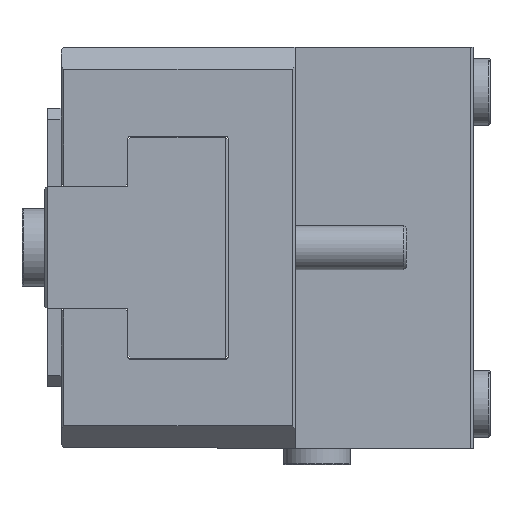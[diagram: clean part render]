
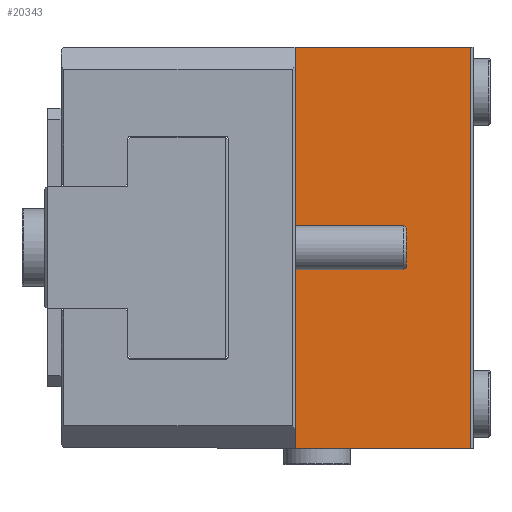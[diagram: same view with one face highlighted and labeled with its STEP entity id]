
A CAD part, left-side view. The second image highlights one B-rep face of the part: STEP entity #20343.
In plain terms, the highlighted planar face has unit normal (-1, 0, 0).
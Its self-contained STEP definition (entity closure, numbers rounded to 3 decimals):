
#52 = EDGE_CURVE ( 'NONE', #24635, #6542, #38154, .T. ) ;
#1867 = AXIS2_PLACEMENT_3D ( 'NONE', #6889, #23006, #51030 ) ;
#2771 = CARTESIAN_POINT ( 'NONE',  ( -62.5, 0.5, 36. ) ) ;
#5255 = EDGE_CURVE ( 'NONE', #43854, #28690, #50553, .T. ) ;
#6239 = ORIENTED_EDGE ( 'NONE', *, *, #5255, .F. ) ;
#6542 = VERTEX_POINT ( 'NONE', #44893 ) ;
#6889 = CARTESIAN_POINT ( 'NONE',  ( -62.5, -90.179, 36. ) ) ;
#8283 = EDGE_CURVE ( 'NONE', #6542, #43854, #15477, .T. ) ;
#9268 = ORIENTED_EDGE ( 'NONE', *, *, #8283, .F. ) ;
#9926 = DIRECTION ( 'NONE',  ( 0., 0., -1. ) ) ;
#11781 = DIRECTION ( 'NONE',  ( 0., 0., 1. ) ) ;
#15477 = LINE ( 'NONE', #19614, #35526 ) ;
#16491 = EDGE_LOOP ( 'NONE', ( #40053, #6239, #9268, #39866 ) ) ;
#17296 = VECTOR ( 'NONE', #43660, 1000. ) ;
#19614 = CARTESIAN_POINT ( 'NONE',  ( -62.5, 32., 36. ) ) ;
#20343 = ADVANCED_FACE ( 'NONE', ( #31273 ), #47003, .F. ) ;
#22419 = DIRECTION ( 'NONE',  ( 0., 1., 0. ) ) ;
#23006 = DIRECTION ( 'NONE',  ( 1., 0., 0. ) ) ;
#23398 = CARTESIAN_POINT ( 'NONE',  ( -62.5, 32., 36. ) ) ;
#23698 = CARTESIAN_POINT ( 'NONE',  ( -62.5, -90.179, 36. ) ) ;
#24635 = VERTEX_POINT ( 'NONE', #49634 ) ;
#28690 = VERTEX_POINT ( 'NONE', #2771 ) ;
#31273 = FACE_OUTER_BOUND ( 'NONE', #16491, .T. ) ;
#33658 = EDGE_CURVE ( 'NONE', #28690, #24635, #43737, .T. ) ;
#33890 = CARTESIAN_POINT ( 'NONE',  ( -62.5, 0.5, 36. ) ) ;
#35526 = VECTOR ( 'NONE', #11781, 1000. ) ;
#36825 = VECTOR ( 'NONE', #9926, 1000. ) ;
#38154 = LINE ( 'NONE', #42392, #48816 ) ;
#39866 = ORIENTED_EDGE ( 'NONE', *, *, #52, .F. ) ;
#40053 = ORIENTED_EDGE ( 'NONE', *, *, #33658, .F. ) ;
#42392 = CARTESIAN_POINT ( 'NONE',  ( -62.5, -90.179, -36. ) ) ;
#43660 = DIRECTION ( 'NONE',  ( 0., -1., 0. ) ) ;
#43737 = LINE ( 'NONE', #33890, #36825 ) ;
#43854 = VERTEX_POINT ( 'NONE', #23398 ) ;
#44893 = CARTESIAN_POINT ( 'NONE',  ( -62.5, 32., -36. ) ) ;
#47003 = PLANE ( 'NONE',  #1867 ) ;
#48816 = VECTOR ( 'NONE', #22419, 1000. ) ;
#49634 = CARTESIAN_POINT ( 'NONE',  ( -62.5, 0.5, -36. ) ) ;
#50553 = LINE ( 'NONE', #23698, #17296 ) ;
#51030 = DIRECTION ( 'NONE',  ( 0., 0., -1. ) ) ;
